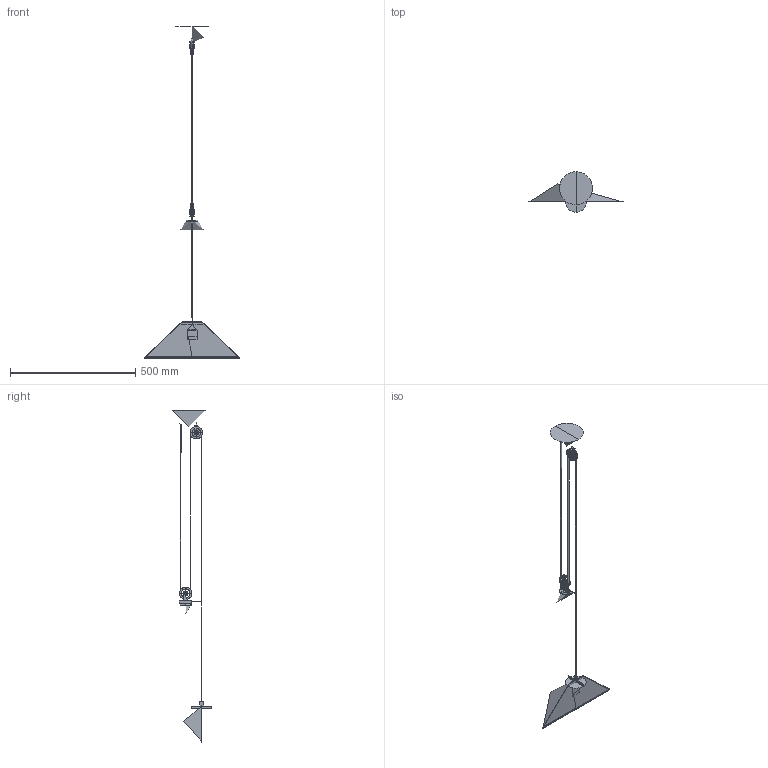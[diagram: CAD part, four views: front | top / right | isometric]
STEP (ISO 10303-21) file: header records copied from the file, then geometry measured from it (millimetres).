
FILE_DESCRIPTION(/* description */ (''),/* implementation_level */ '2;1');
FILE_NAME(/* name */ 'aggregato saliscendi d38',/* time_stamp */ '2016-04-29T14:36:43+02:00',/* author */ (''),/* organization */ (''),/* preprocessor_version */ 'ST-DEVELOPER v15',/* originating_system */ '',/* authorisation */ '');
FILE_SCHEMA (('AUTOMOTIVE_DESIGN'));
Length unit declared in the file: millimetre
Products named in the file (6): Document; Blocco 01 01; Blocco 02; Blocco 03; Blocco 05; Blocco 04
Assembly tree (5 placements, depth 2):
  Document
    Blocco 01 01
    Blocco 02
    Blocco 03
    Blocco 05
    Blocco 04
Bounding box: 382 x 159.41 x 1323.61 mm (x, y, z)
Surface area: 488439.4 mm2 (no closed solid volume)
Topology: 0 solids, 150 shells, 158 faces, 650 edges, 643 vertices
Faces by surface type: bspline 86, plane 72
Entity records: 8736 total; most frequent: CARTESIAN_POINT 5348, ORIENTED_EDGE 618, EDGE_CURVE 602, VERTEX_POINT 587, PRESENTATION_LAYER_ASSIGNMENT 202, EDGE_LOOP 173, B_SPLINE_CURVE_WITH_KNOTS 166, ADVANCED_FACE 158
